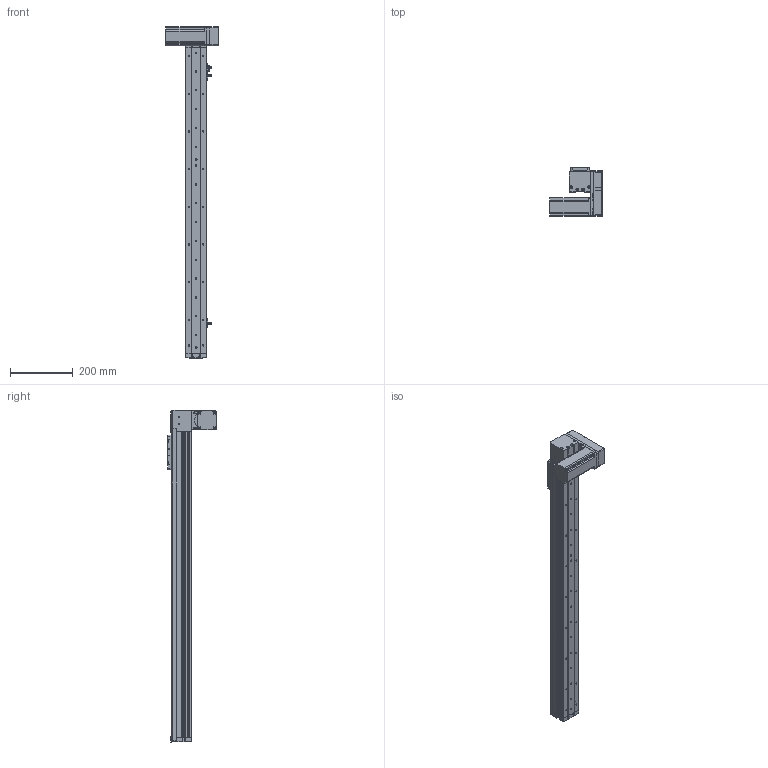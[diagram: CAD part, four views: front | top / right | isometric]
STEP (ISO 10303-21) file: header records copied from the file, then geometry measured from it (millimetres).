
FILE_DESCRIPTION (( 'STEP AP214' ), '1' );
FILE_NAME ('KSD68BS-S800-MLD-CR.STEP', '2019-08-27T03:46:36', ( '微软用户' ), ( '微软中国' ), 'SwSTEP 2.0', 'SolidWorks 2014', '' );
FILE_SCHEMA (( 'AUTOMOTIVE_DESIGN' ));
Length unit declared in the file: millimetre
Products named in the file (14): 悵誘欶奻狟殏; 68宽马达安装板连板上折同步带; 感应片68宽全封闭; U倰嫖萇EEㄜSX672; 台达ECMA－C20604AS伺服电机（400W); KSD68BS 800行程底板全封闭; KSD68BS-S800-MLD-CR; KSD68BS 800行程盖板全封闭; 68遵裔啣揤啣1; 68宽单导轨全封闭丝杆传动安装板1防护罩; KSD68BS 800行程侧板全封闭; 68宽单导轨全封闭同步带端板; 68单导轨全封闭同步带电机座左; 68单导轨全封闭同步带安装板
Assembly tree (17 placements, depth 2):
  KSD68BS-S800-MLD-CR
    KSD68BS 800行程底板全封闭
    台达ECMA－C20604AS伺服电机（400W)
    U倰嫖萇EEㄜSX672  x3
    感应片68宽全封闭
    68宽马达安装板连板上折同步带
    悵誘欶奻狟殏
    68单导轨全封闭同步带安装板
    68单导轨全封闭同步带电机座左
    68宽单导轨全封闭同步带端板
    KSD68BS 800行程侧板全封闭  x2
    68宽单导轨全封闭丝杆传动安装板1防护罩
    68遵裔啣揤啣1  x2
    KSD68BS 800行程盖板全封闭
Bounding box: 167.2 x 155.5 x 1058.1 mm (x, y, z)
Volume: 2266912.7 mm3; surface area: 844892.6 mm2
Topology: 18 solids, 18 shells, 1471 faces, 4177 edges, 2676 vertices
Faces by surface type: cylinder 690, plane 625, cone 156
Entity records: 46547 total; most frequent: CARTESIAN_POINT 7973, DIRECTION 6986, ORIENTED_EDGE 6690, EDGE_CURVE 3345, AXIS2_PLACEMENT_3D 2513, VERTEX_POINT 2194, LINE 1960, VECTOR 1960
